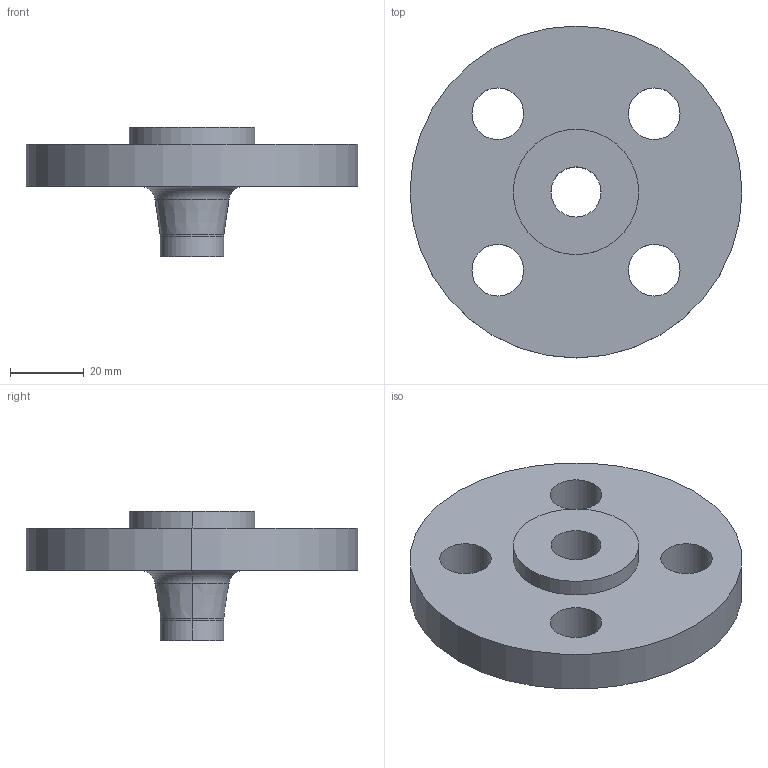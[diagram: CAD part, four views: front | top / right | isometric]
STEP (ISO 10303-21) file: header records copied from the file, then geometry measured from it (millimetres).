
FILE_DESCRIPTION (( 'STEP AP214' ), '1' );
FILE_NAME ('PN40 DN10 Type 11 - Type E Face.STEP', '2018-12-29T05:11:35', ( '' ), ( '' ), 'SwSTEP 2.0', 'SolidWorks 2019', '' );
FILE_SCHEMA (( 'AUTOMOTIVE_DESIGN' ));
Length unit declared in the file: millimetre
Products named in the file (1): PN40 DN10 Type 11 - Type E Face
Bounding box: 90 x 90 x 35 mm (x, y, z)
Volume: 70415.1 mm3; surface area: 19377 mm2
Topology: 1 solids, 1 shells, 26 faces, 60 edges, 38 vertices
Faces by surface type: cylinder 16, torus 4, plane 4, cone 2
Entity records: 812 total; most frequent: DIRECTION 156, CARTESIAN_POINT 125, ORIENTED_EDGE 120, AXIS2_PLACEMENT_3D 69, EDGE_CURVE 60, CIRCLE 42, VERTEX_POINT 38, EDGE_LOOP 38
